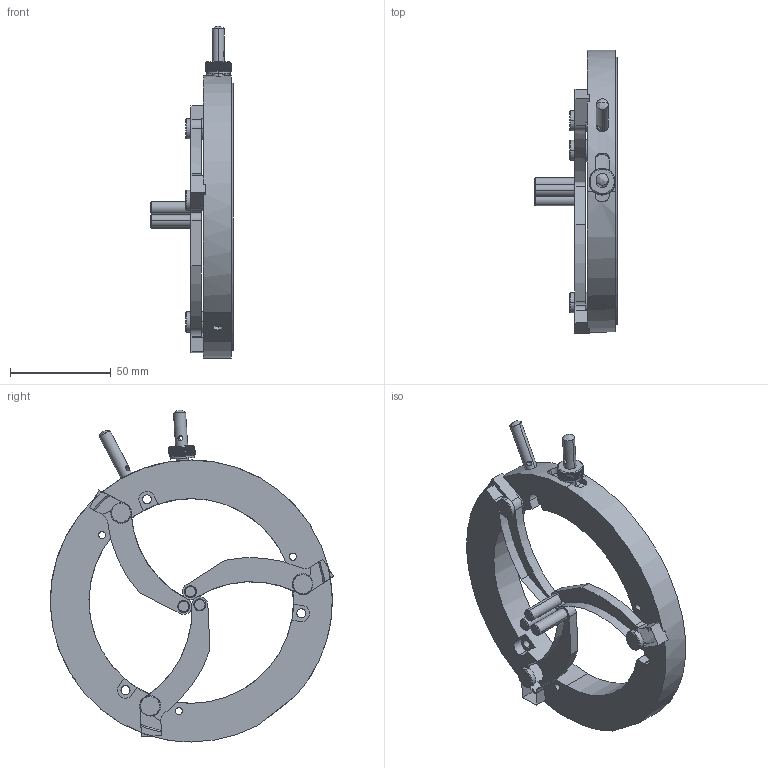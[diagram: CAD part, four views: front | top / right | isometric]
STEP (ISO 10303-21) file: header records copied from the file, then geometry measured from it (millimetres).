
FILE_DESCRIPTION (( 'STEP AP203' ), '1' );
FILE_NAME ('4SCML-4.STEP', '2010-02-21T09:48:55', ( 'Darius' ), ( '' ), 'SwSTEP 2.0', 'SolidWorks 2003240', '' );
FILE_SCHEMA (( 'CONFIG_CONTROL_DESIGN' ));
Length unit declared in the file: millimetre
Products named in the file (1): 4SCML-4
Bounding box: 41 x 140.7 x 164.82 mm (x, y, z)
Volume: 122678.1 mm3; surface area: 36197.2 mm2
Topology: 1 solids, 1 shells, 278 faces, 786 edges, 511 vertices
Faces by surface type: plane 162, cylinder 93, cone 20, bspline 3
Entity records: 9706 total; most frequent: CARTESIAN_POINT 2661, ORIENTED_EDGE 1560, DIRECTION 1340, EDGE_CURVE 780, AXIS2_PLACEMENT_3D 509, VERTEX_POINT 508, VECTOR 322, LINE 322
